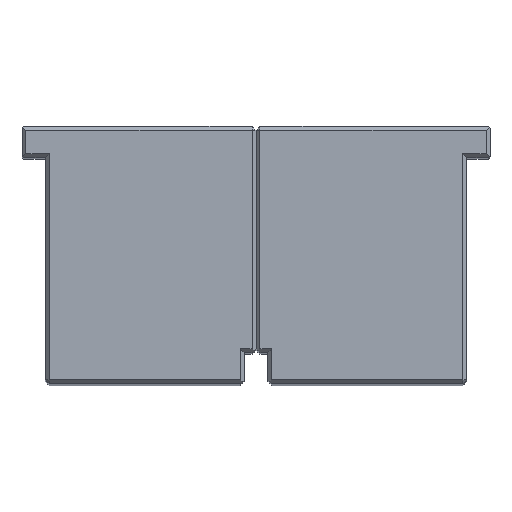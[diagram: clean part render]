
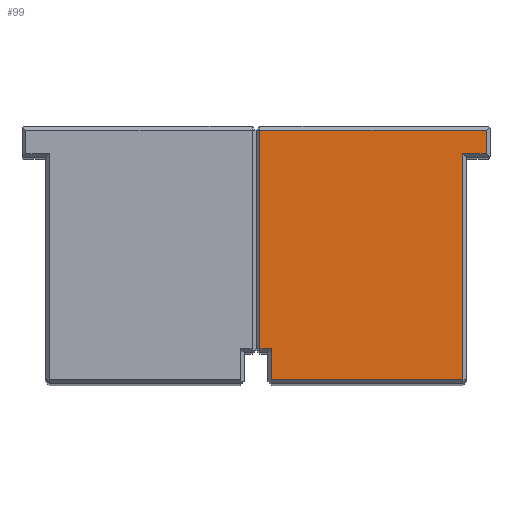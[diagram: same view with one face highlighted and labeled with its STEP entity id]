
A CAD part, top view. The second image highlights one B-rep face of the part: STEP entity #99.
In plain terms, the highlighted planar face has unit normal (0, 0, 1) as drawn and (1, 0, 0) by its records, which use the part's own axes.
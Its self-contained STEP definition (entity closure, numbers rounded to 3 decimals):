
#10 = EDGE_CURVE ( 'NONE', #933, #137, #393, .T. ) ;
#13 = CARTESIAN_POINT ( 'NONE',  ( 62.5, 27., -0.5 ) ) ;
#50 = EDGE_CURVE ( 'NONE', #796, #259, #971, .T. ) ;
#68 = CARTESIAN_POINT ( 'NONE',  ( 62.5, 2., -32.5 ) ) ;
#91 = CARTESIAN_POINT ( 'NONE',  ( 62.5, 29.5, -33. ) ) ;
#99 = ADVANCED_FACE ( 'NONE', ( #645 ), #959, .F. ) ;
#103 = LINE ( 'NONE', #658, #877 ) ;
#108 = CARTESIAN_POINT ( 'NONE',  ( 62.5, 27., -32.5 ) ) ;
#109 = DIRECTION ( 'NONE',  ( 0., 0., -1. ) ) ;
#137 = VERTEX_POINT ( 'NONE', #292 ) ;
#168 = LINE ( 'NONE', #454, #703 ) ;
#197 = LINE ( 'NONE', #266, #1048 ) ;
#204 = CARTESIAN_POINT ( 'NONE',  ( 62.5, 27., -3.5 ) ) ;
#222 = CARTESIAN_POINT ( 'NONE',  ( 62.5, 0.5, -0.5 ) ) ;
#259 = VERTEX_POINT ( 'NONE', #222 ) ;
#266 = CARTESIAN_POINT ( 'NONE',  ( 62.5, 26.5, -4. ) ) ;
#279 = CARTESIAN_POINT ( 'NONE',  ( 62.5, 2., -28.5 ) ) ;
#292 = CARTESIAN_POINT ( 'NONE',  ( 62.5, 29.5, -3.5 ) ) ;
#310 = CARTESIAN_POINT ( 'NONE',  ( 62.5, 29.5, -0.5 ) ) ;
#393 = LINE ( 'NONE', #204, #433 ) ;
#433 = VECTOR ( 'NONE', #954, 1000. ) ;
#439 = VECTOR ( 'NONE', #1116, 1000. ) ;
#445 = EDGE_CURVE ( 'NONE', #259, #851, #1042, .T. ) ;
#450 = EDGE_CURVE ( 'NONE', #758, #933, #197, .T. ) ;
#451 = CARTESIAN_POINT ( 'NONE',  ( 62.5, 26.5, -3.5 ) ) ;
#452 = VECTOR ( 'NONE', #109, 1000. ) ;
#453 = ORIENTED_EDGE ( 'NONE', *, *, #641, .T. ) ;
#454 = CARTESIAN_POINT ( 'NONE',  ( 62.5, 27., -28.5 ) ) ;
#564 = CARTESIAN_POINT ( 'NONE',  ( 62.5, 27., -33. ) ) ;
#585 = DIRECTION ( 'NONE',  ( 0., 0., -1. ) ) ;
#591 = VECTOR ( 'NONE', #860, 1000. ) ;
#592 = LINE ( 'NONE', #108, #591 ) ;
#593 = EDGE_CURVE ( 'NONE', #851, #769, #168, .T. ) ;
#622 = CARTESIAN_POINT ( 'NONE',  ( 62.5, 0.5, -28.5 ) ) ;
#641 = EDGE_CURVE ( 'NONE', #137, #796, #1223, .T. ) ;
#645 = FACE_OUTER_BOUND ( 'NONE', #696, .T. ) ;
#658 = CARTESIAN_POINT ( 'NONE',  ( 62.5, 2., -33. ) ) ;
#664 = ORIENTED_EDGE ( 'NONE', *, *, #593, .T. ) ;
#691 = EDGE_CURVE ( 'NONE', #943, #758, #592, .T. ) ;
#696 = EDGE_LOOP ( 'NONE', ( #999, #664, #1111, #1175, #864, #814, #453, #833 ) ) ;
#703 = VECTOR ( 'NONE', #805, 1000. ) ;
#758 = VERTEX_POINT ( 'NONE', #889 ) ;
#760 = CARTESIAN_POINT ( 'NONE',  ( 62.5, 0.5, -33. ) ) ;
#769 = VERTEX_POINT ( 'NONE', #279 ) ;
#773 = EDGE_CURVE ( 'NONE', #769, #943, #103, .T. ) ;
#796 = VERTEX_POINT ( 'NONE', #310 ) ;
#805 = DIRECTION ( 'NONE',  ( 0., 1., 0. ) ) ;
#814 = ORIENTED_EDGE ( 'NONE', *, *, #10, .T. ) ;
#833 = ORIENTED_EDGE ( 'NONE', *, *, #50, .T. ) ;
#851 = VERTEX_POINT ( 'NONE', #622 ) ;
#860 = DIRECTION ( 'NONE',  ( 0., 1., 0. ) ) ;
#861 = DIRECTION ( 'NONE',  ( 0., 0., 1. ) ) ;
#864 = ORIENTED_EDGE ( 'NONE', *, *, #450, .T. ) ;
#877 = VECTOR ( 'NONE', #585, 1000. ) ;
#889 = CARTESIAN_POINT ( 'NONE',  ( 62.5, 26.5, -32.5 ) ) ;
#933 = VERTEX_POINT ( 'NONE', #451 ) ;
#943 = VERTEX_POINT ( 'NONE', #68 ) ;
#948 = DIRECTION ( 'NONE',  ( 0., 0., 1. ) ) ;
#954 = DIRECTION ( 'NONE',  ( 0., 1., 0. ) ) ;
#959 = PLANE ( 'NONE',  #1173 ) ;
#971 = LINE ( 'NONE', #13, #1071 ) ;
#999 = ORIENTED_EDGE ( 'NONE', *, *, #445, .T. ) ;
#1042 = LINE ( 'NONE', #760, #452 ) ;
#1046 = DIRECTION ( 'NONE',  ( 0., -1., 0. ) ) ;
#1048 = VECTOR ( 'NONE', #861, 1000. ) ;
#1071 = VECTOR ( 'NONE', #1046, 1000. ) ;
#1111 = ORIENTED_EDGE ( 'NONE', *, *, #773, .T. ) ;
#1116 = DIRECTION ( 'NONE',  ( 0., 0., 1. ) ) ;
#1173 = AXIS2_PLACEMENT_3D ( 'NONE', #564, #1237, #948 ) ;
#1175 = ORIENTED_EDGE ( 'NONE', *, *, #691, .T. ) ;
#1223 = LINE ( 'NONE', #91, #439 ) ;
#1237 = DIRECTION ( 'NONE',  ( -1., 0., 0. ) ) ;
